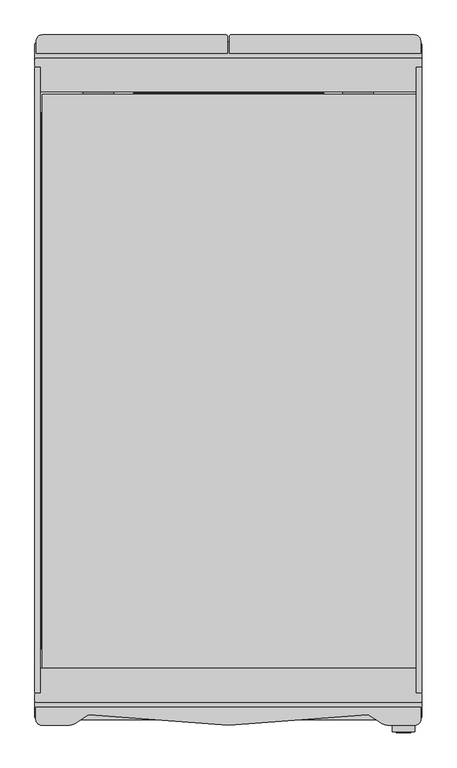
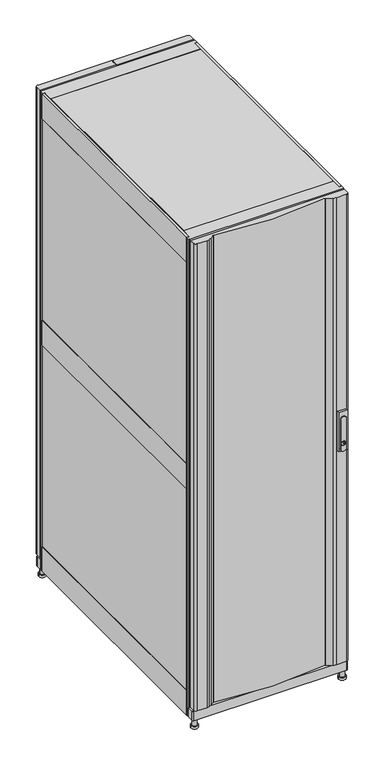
"""IFC4 building model written with IfcOpenShell, lengths in millimetres: proxy geometry, Symmetra_PX_250_UPS_Frame_Schneider_Electric_BIM_Model : SYPF250KD."""

from ifc_helpers import new_model, si_unit, point, frame, frame_2d, origin, place, context, project, spatial, polyline, circle_curve, trimmed, segment, composite_curve, outline, extrude, source, transform, mapped, element, save
from ifc_brep_helpers import plane_surface, cylinder_surface, revolved_surface, advanced_brep


def electrical_equipment_b4252899(model_context):
    return source(origin(), model_context, "Body", "SolidModel", [
        extrude(outline(polyline([(292.0, -484.3030002), (292.0, 484.7389449), (300.0, 484.7389449), (300.0, -484.3030002), (292.0, -484.3030002)])), frame((0.0, 0.0, 1888.946775), z_axis=(0.0, 0.0, 1.0), x_axis=(1.0, 0.0, 0.0)), (0.0, 0.0, 1.0), 101.9999981),
        extrude(outline(polyline([(292.0, -483.7220002), (292.0, 483.8199605), (300.0, 483.8199605), (300.0, -483.7220002), (292.0, -483.7220002)])), frame((0.0, 0.0, 1065.7405589), z_axis=(0.0, 0.0, 1.0), x_axis=(1.0, 0.0, 0.0)), (0.0, 0.0, 1.0), 822.214216),
        extrude(outline(polyline([(292.0, -484.3030002), (292.0, 484.7389449), (300.0, 484.7389449), (300.0, -484.3030002), (292.0, -484.3030002)])), frame((0.0, 0.0, 962.4467451), z_axis=(0.0, 0.0, 1.0), x_axis=(1.0, 0.0, 0.0)), (0.0, 0.0, 1.0), 102.0000055),
        extrude(outline(polyline([(292.0, -483.7220002), (292.0, 483.8199605), (300.0, 483.8199605), (300.0, -483.7220002), (292.0, -483.7220002)])), frame((0.0, 0.0, 139.2405663), z_axis=(0.0, 0.0, 1.0), x_axis=(1.0, 0.0, 0.0)), (0.0, 0.0, 1.0), 822.2141825),
        extrude(outline(polyline([(292.0, -484.3030002), (292.0, 484.7389449), (300.0, 484.7389449), (300.0, -484.3030002), (292.0, -484.3030002)])), frame((0.0, 0.0, 35.9467301), z_axis=(0.0, 0.0, 1.0), x_axis=(1.0, 0.0, 0.0)), (0.0, 0.0, 1.0), 101.9999981),
        extrude(outline(composite_curve([segment(trimmed(circle_curve(frame_2d((965.0100104, 272.0137961)), 11.2467677), [point((965.0100104, 260.7670285))], [point((965.0100104, 283.2605638))], False, "CARTESIAN"), True, "CONTINUOUS"), segment(polyline([(965.0100104, 283.2605638), (1085.0100104, 283.2605638)]), True, "CONTINUOUS"), segment(trimmed(circle_curve(frame_2d((1085.0100104, 272.0137961)), 11.2467677), [point((1085.0100104, 283.2605638))], [point((1085.0100104, 260.7670285))], False, "CARTESIAN"), True, "CONTINUOUS"), segment(polyline([(1085.0100104, 260.7670285), (965.0100104, 260.7670285)]), True, "CONTINUOUS")], self_intersect=False), holes=[composite_curve([segment(trimmed(circle_curve(frame_2d((986.2304594, 272.0353005)), 8.4681222), [point((989.2723415, 264.1323867))], [point((989.2723415, 279.9382143))], True, "CARTESIAN"), True, "CONTINUOUS"), segment(trimmed(circle_curve(frame_2d((986.2304594, 272.0353005)), 8.4681222), [point((989.2723415, 279.9382143))], [point((983.1885772, 279.9382143))], True, "CARTESIAN"), True, "CONTINUOUS"), segment(trimmed(circle_curve(frame_2d((986.2304594, 272.0353005)), 8.4681222), [point((983.1885772, 279.9382143))], [point((983.1885772, 264.1323867))], True, "CARTESIAN"), True, "CONTINUOUS"), segment(trimmed(circle_curve(frame_2d((986.2304594, 272.0353005)), 8.4681222), [point((983.1885772, 264.1323867))], [point((989.2723415, 264.1323867))], True, "CARTESIAN"), True, "CONTINUOUS")], self_intersect=False)]), frame((0.0, -546.5, 0.0), z_axis=(0.0, 1.0, 0.0), x_axis=(0.0, 0.0, 1.0)), (0.0, 0.0, 1.0), 2.0),
        extrude(outline(composite_curve([segment(polyline([(988.2945248, 264.1323867), (984.166394, 264.1323867)]), True, "CONTINUOUS"), segment(trimmed(circle_curve(frame_2d((986.2304594, 272.0353005)), 8.1680116), [point((984.166394, 264.1323867))], [point((984.166394, 279.9382143))], False, "CARTESIAN"), True, "CONTINUOUS"), segment(polyline([(984.166394, 279.9382143), (988.2945248, 279.9382143)]), True, "CONTINUOUS"), segment(trimmed(circle_curve(frame_2d((986.2304594, 272.0353005)), 8.1680116), [point((988.2945248, 279.9382143))], [point((988.2945248, 264.1323867))], False, "CARTESIAN"), True, "CONTINUOUS")], self_intersect=False), holes=[polyline([(981.6937867, 272.0353005), (993.3981021, 272.0353005), (993.3981021, 274.4361857), (981.6937867, 274.4361857), (981.6937867, 272.0353005)])]), frame((0.0, -546.5, 0.0), z_axis=(0.0, 1.0, 0.0), x_axis=(0.0, 0.0, 1.0)), (0.0, 0.0, 1.0), 2.0),
        extrude(outline(polyline([(274.1361857, -546.5), (272.3353005, -546.5), (272.3353005, -544.5), (274.1361857, -544.5), (274.1361857, -546.5)])), frame((0.0, 0.0, 981.9937867), z_axis=(0.0, 0.0, 1.0), x_axis=(1.0, 0.0, 0.0)), (0.0, 0.0, 1.0), 11.1043154),
        extrude(outline(polyline([(289.0270248, -544.5), (254.2370304, -544.5), (254.2370304, -535.0), (289.0270248, -535.0), (289.0270248, -544.5)])), frame((0.0, 0.0, 955.0100058), z_axis=(0.0, 0.0, 1.0), x_axis=(1.0, 0.0, 0.0)), (0.0, 0.0, 1.0), 159.9999908),
        extrude(outline(polyline([(-292.0, 484.7389449), (-292.0, -484.3030002), (-300.0, -484.3030002), (-300.0, 484.7389449), (-292.0, 484.7389449)])), frame((0.0, 0.0, 1888.946775), z_axis=(0.0, 0.0, 1.0), x_axis=(1.0, 0.0, 0.0)), (0.0, 0.0, 1.0), 101.9999981),
        extrude(outline(polyline([(-292.0, 483.8199605), (-292.0, -483.7220002), (-300.0, -483.7220002), (-300.0, 483.8199605), (-292.0, 483.8199605)])), frame((0.0, 0.0, 1065.7405589), z_axis=(0.0, 0.0, 1.0), x_axis=(1.0, 0.0, 0.0)), (0.0, 0.0, 1.0), 822.214216),
        extrude(outline(polyline([(-292.0, 484.7389449), (-292.0, -484.3030002), (-300.0, -484.3030002), (-300.0, 484.7389449), (-292.0, 484.7389449)])), frame((0.0, 0.0, 962.4467451), z_axis=(0.0, 0.0, 1.0), x_axis=(1.0, 0.0, 0.0)), (0.0, 0.0, 1.0), 102.0000055),
        extrude(outline(polyline([(-292.0, 483.8199605), (-292.0, -483.7220002), (-300.0, -483.7220002), (-300.0, 483.8199605), (-292.0, 483.8199605)])), frame((0.0, 0.0, 139.2405663), z_axis=(0.0, 0.0, 1.0), x_axis=(1.0, 0.0, 0.0)), (0.0, 0.0, 1.0), 822.2141825),
        extrude(outline(polyline([(-292.0, 484.7389449), (-292.0, -484.3030002), (-300.0, -484.3030002), (-300.0, 484.7389449), (-292.0, 484.7389449)])), frame((0.0, 0.0, 35.9467301), z_axis=(0.0, 0.0, 1.0), x_axis=(1.0, 0.0, 0.0)), (0.0, 0.0, 1.0), 101.9999981),
        extrude(outline(composite_curve([segment(polyline([(295.0, -525.858838), (-295.0, -525.858838)]), True, "CONTINUOUS"), segment(trimmed(circle_curve(frame_2d((-295.0, -520.858838)), 5.0), [point((-295.0, -525.858838))], [point((-300.0, -520.858838))], False, "CARTESIAN"), True, "CONTINUOUS"), segment(polyline([(-300.0, -520.858838), (-300.0, -497.6556519), (300.0, -497.6556519), (300.0, -520.858838)]), True, "CONTINUOUS"), segment(trimmed(circle_curve(frame_2d((295.0, -520.858838)), 5.0), [point((300.0, -520.858838))], [point((295.0, -525.858838))], False, "CARTESIAN"), True, "CONTINUOUS")], self_intersect=False)), frame((0.0, 0.0, 36.3), z_axis=(0.0, 0.0, 1.0), x_axis=(1.0, 0.0, 0.0)), (0.0, 0.0, 1.0), 38.1),
        extrude(outline(composite_curve([segment(trimmed(circle_curve(frame_2d((295.0, 519.921338)), 5.0), [point((295.0, 524.921338))], [point((300.0, 519.921338))], False, "CARTESIAN"), True, "CONTINUOUS"), segment(polyline([(300.0, 519.921338), (300.0, 496.7181519), (-300.0, 496.7181519), (-300.0, 519.921338)]), True, "CONTINUOUS"), segment(trimmed(circle_curve(frame_2d((-295.0, 519.921338)), 5.0), [point((-300.0, 519.921338))], [point((-295.0, 524.921338))], False, "CARTESIAN"), True, "CONTINUOUS"), segment(polyline([(-295.0, 524.921338), (295.0, 524.921338)]), True, "CONTINUOUS")], self_intersect=False)), frame((0.0, 0.0, 36.3), z_axis=(0.0, 0.0, 1.0), x_axis=(1.0, 0.0, 0.0)), (0.0, 0.0, 1.0), 38.1),
        advanced_brep(
        [(295.0884724, 510.7969997, 40.0), (276.9884724, 510.7969997, 40.0), (276.9884724, 510.7969997, 10.0), (295.0884724, 510.7969997, 10.0), (271.9800276, 510.7969997, 10.0), (299.9800276, 510.7969997, 10.0), (271.9800276, 510.7969997, 0.0), (299.9800276, 510.7969997, 0.0)],
        [
            (0, 1, circle_curve(frame((286.0384724, 510.7969997, 40.0), z_axis=(0.0, 0.0, 1.0), x_axis=(-1.0, 0.0, 0.0)), 9.05)),
            (1, 0, circle_curve(frame((286.0384724, 510.7969997, 40.0), z_axis=(0.0, 0.0, 1.0), x_axis=(-1.0, 0.0, 0.0)), 9.05)),
            (1, 2),
            (2, 3, circle_curve(frame((286.0384724, 510.7969997, 10.0), z_axis=(0.0, 0.0, 1.0), x_axis=(-1.0, 0.0, 0.0)), 9.05)),
            (3, 0),
            (3, 2, circle_curve(frame((286.0384724, 510.7969997, 10.0), z_axis=(0.0, 0.0, 1.0), x_axis=(-1.0, 0.0, 0.0)), 9.05)),
            (4, 5, circle_curve(frame((285.9800276, 510.7969997, 10.0), z_axis=(0.0, 0.0, 1.0), x_axis=(1.0, 0.0, 0.0)), 14.0)),
            (5, 4, circle_curve(frame((285.9800276, 510.7969997, 10.0), z_axis=(0.0, 0.0, 1.0), x_axis=(1.0, 0.0, 0.0)), 14.0)),
            (6, 7, circle_curve(frame((285.9800276, 510.7969997, 0.0), z_axis=(0.0, 0.0, -1.0), x_axis=(1.0, 0.0, 0.0)), 14.0)),
            (7, 6, circle_curve(frame((285.9800276, 510.7969997, 0.0), z_axis=(0.0, 0.0, -1.0), x_axis=(1.0, 0.0, 0.0)), 14.0)),
            (4, 6),
            (7, 5),
        ],
        [
            plane_surface(frame((276.9884724, 510.7969997, 40.0), z_axis=(0.0, 0.0, 1.0), x_axis=(0.0, -1.0, 0.0))),
            cylinder_surface(frame((286.0384724, 510.7969997, 10.0), z_axis=(0.0, 0.0, 1.0), x_axis=(-1.0, 0.0, 0.0)), 9.05),
            plane_surface(frame((299.9800276, 510.7969997, 10.0), z_axis=(0.0, 0.0, 1.0), x_axis=(0.0, 1.0, 0.0))),
            plane_surface(frame((299.9800276, 510.7969997, 0.0), z_axis=(0.0, 0.0, -1.0), x_axis=(0.0, -1.0, 0.0))),
            cylinder_surface(frame((285.9800276, 510.7969997, 0.0), z_axis=(0.0, 0.0, 1.0), x_axis=(1.0, 0.0, 0.0)), 14.0),
        ],
        [
            (0, [[1, 2]]),
            (1, [[-2, 3, 4, 5]]),
            (1, [[-1, -5, 6, -3]]),
            (2, [[7, 8], [-4, -6]]),
            (3, [[9, 10]]),
            (4, [[-7, 11, -10, 12]]),
            (4, [[-8, -12, -9, -11]]),
        ],
    ),
        advanced_brep(
        [(295.0884724, -511.9030003, 40.0), (276.9884724, -511.9030003, 40.0), (276.9884724, -511.9030003, 10.0), (295.0884724, -511.9030003, 10.0), (271.9800276, -511.9030003, 10.0), (299.9800276, -511.9030003, 10.0), (271.9800276, -511.9030003, 0.0), (299.9800276, -511.9030003, 0.0)],
        [
            (0, 1, circle_curve(frame((286.0384724, -511.9030003, 40.0), z_axis=(0.0, 0.0, 1.0), x_axis=(-1.0, 0.0, 0.0)), 9.05)),
            (1, 0, circle_curve(frame((286.0384724, -511.9030003, 40.0), z_axis=(0.0, 0.0, 1.0), x_axis=(-1.0, 0.0, 0.0)), 9.05)),
            (1, 2),
            (2, 3, circle_curve(frame((286.0384724, -511.9030003, 10.0), z_axis=(0.0, 0.0, 1.0), x_axis=(-1.0, 0.0, 0.0)), 9.05)),
            (3, 0),
            (3, 2, circle_curve(frame((286.0384724, -511.9030003, 10.0), z_axis=(0.0, 0.0, 1.0), x_axis=(-1.0, 0.0, 0.0)), 9.05)),
            (4, 5, circle_curve(frame((285.9800276, -511.9030003, 10.0), z_axis=(0.0, 0.0, 1.0), x_axis=(1.0, 0.0, 0.0)), 14.0)),
            (5, 4, circle_curve(frame((285.9800276, -511.9030003, 10.0), z_axis=(0.0, 0.0, 1.0), x_axis=(1.0, 0.0, 0.0)), 14.0)),
            (6, 7, circle_curve(frame((285.9800276, -511.9030003, 0.0), z_axis=(0.0, 0.0, -1.0), x_axis=(1.0, 0.0, 0.0)), 14.0)),
            (7, 6, circle_curve(frame((285.9800276, -511.9030003, 0.0), z_axis=(0.0, 0.0, -1.0), x_axis=(1.0, 0.0, 0.0)), 14.0)),
            (4, 6),
            (7, 5),
        ],
        [
            plane_surface(frame((276.9884724, 510.7969997, 40.0), z_axis=(0.0, 0.0, 1.0), x_axis=(0.0, -1.0, 0.0))),
            cylinder_surface(frame((286.0384724, -511.9030003, 0.0), z_axis=(0.0, 0.0, 1.0), x_axis=(-1.0, 0.0, 0.0)), 9.05),
            plane_surface(frame((299.9800276, 510.7969997, 10.0), z_axis=(0.0, 0.0, 1.0), x_axis=(0.0, 1.0, 0.0))),
            plane_surface(frame((299.9800276, 510.7969997, 0.0), z_axis=(0.0, 0.0, -1.0), x_axis=(0.0, -1.0, 0.0))),
            cylinder_surface(frame((285.9800276, -511.9030003, 0.0), z_axis=(0.0, 0.0, 1.0), x_axis=(1.0, 0.0, 0.0)), 14.0),
        ],
        [
            (0, [[1, 2]]),
            (1, [[-2, 3, 4, 5]]),
            (1, [[-1, -5, 6, -3]]),
            (2, [[7, 8], [-4, -6]]),
            (3, [[9, 10]]),
            (4, [[-7, 11, -10, 12]]),
            (4, [[-8, -12, -9, -11]]),
        ],
    ),
        extrude(outline(polyline([(237.0235403, 263.8835947), (-240.5320546, 263.8835947), (-240.5320546, 410.9154708), (237.0235403, 410.9154708), (237.0235403, 263.8835947)])), frame((0.0, 0.0, 44.5), z_axis=(0.0, 0.0, 1.0), x_axis=(1.0, 0.0, 0.0)), (0.0, 0.0, 1.0), 1.0),
        extrude(outline(polyline([(-289.9249756, -416.0459999), (-289.9249756, 414.9399709), (-146.8398751, 414.9399709), (-146.8398751, 444.9399709), (148.1601249, 444.9399709), (148.1601249, 414.9399709), (290.3410287, 414.9399709), (290.3410287, -416.0459999), (147.8889915, -416.0459999), (147.8889915, -446.0459999), (-147.1110085, -446.0459999), (-147.1110085, -416.0459999), (-289.9249756, -416.0459999)])), frame((0.0, 0.0, 40.0), z_axis=(0.0, 0.0, 1.0), x_axis=(1.0, 0.0, 0.0)), (0.0, 0.0, 1.0), 5.0),
        advanced_brep(
        [(-299.7259724, -511.9030003, 10.0), (-271.7259724, -511.9030003, 10.0), (-276.6759724, -511.9030003, 10.0), (-294.7759724, -511.9030003, 10.0), (-299.7259724, -511.9030003, 0.0), (-271.7259724, -511.9030003, 0.0), (-294.7759724, -511.9030003, 40.0), (-276.6759724, -511.9030003, 40.0)],
        [
            (0, 1, circle_curve(frame((-285.7259724, -511.9030003, 10.0), z_axis=(0.0, 0.0, 1.0), x_axis=(1.0, 0.0, 0.0)), 14.0)),
            (1, 0, circle_curve(frame((-285.7259724, -511.9030003, 10.0), z_axis=(0.0, 0.0, 1.0), x_axis=(1.0, 0.0, 0.0)), 14.0)),
            (2, 3, circle_curve(frame((-285.7259724, -511.9030003, 10.0), z_axis=(0.0, 0.0, -1.0), x_axis=(1.0, 0.0, 0.0)), 9.05)),
            (3, 2, circle_curve(frame((-285.7259724, -511.9030003, 10.0), z_axis=(0.0, 0.0, -1.0), x_axis=(1.0, 0.0, 0.0)), 9.05)),
            (4, 5, circle_curve(frame((-285.7259724, -511.9030003, 0.0), z_axis=(0.0, 0.0, -1.0), x_axis=(1.0, 0.0, 0.0)), 14.0)),
            (5, 4, circle_curve(frame((-285.7259724, -511.9030003, 0.0), z_axis=(0.0, 0.0, -1.0), x_axis=(1.0, 0.0, 0.0)), 14.0)),
            (0, 4),
            (5, 1),
            (6, 7, circle_curve(frame((-285.7259724, -511.9030003, 40.0), z_axis=(0.0, 0.0, 1.0), x_axis=(1.0, 0.0, 0.0)), 9.05)),
            (7, 6, circle_curve(frame((-285.7259724, -511.9030003, 40.0), z_axis=(0.0, 0.0, 1.0), x_axis=(1.0, 0.0, 0.0)), 9.05)),
            (6, 3),
            (2, 7),
        ],
        [
            plane_surface(frame((-271.7259724, -511.9030003, 10.0), z_axis=(0.0, 0.0, 1.0), x_axis=(0.0, 1.0, 0.0))),
            plane_surface(frame((-271.7259724, -511.9030003, 0.0), z_axis=(0.0, 0.0, -1.0), x_axis=(0.0, -1.0, 0.0))),
            cylinder_surface(frame((-285.7259724, -511.9030003, 0.0), z_axis=(0.0, 0.0, 1.0), x_axis=(1.0, 0.0, 0.0)), 14.0),
            plane_surface(frame((-276.6759724, 510.7969997, 40.0), z_axis=(0.0, 0.0, 1.0), x_axis=(0.0, 1.0, 0.0))),
            cylinder_surface(frame((-285.7259724, -511.9030003, 0.0), z_axis=(0.0, 0.0, 1.0), x_axis=(1.0, 0.0, 0.0)), 9.05),
        ],
        [
            (0, [[1, 2], [3, 4]]),
            (1, [[5, 6]]),
            (2, [[-1, 7, -6, 8]]),
            (2, [[-2, -8, -5, -7]]),
            (3, [[9, 10]]),
            (4, [[-9, 11, -3, 12]]),
            (4, [[-10, -12, -4, -11]]),
        ],
    ),
        advanced_brep(
        [(-299.7259724, 510.7969997, 10.0), (-271.7259724, 510.7969997, 10.0), (-276.6759724, 510.7969997, 10.0), (-294.7759724, 510.7969997, 10.0), (-299.7259724, 510.7969997, 0.0), (-271.7259724, 510.7969997, 0.0), (-294.7759724, 510.7969997, 40.0), (-276.6759724, 510.7969997, 40.0)],
        [
            (0, 1, circle_curve(frame((-285.7259724, 510.7969997, 10.0), z_axis=(0.0, 0.0, 1.0), x_axis=(1.0, 0.0, 0.0)), 14.0)),
            (1, 0, circle_curve(frame((-285.7259724, 510.7969997, 10.0), z_axis=(0.0, 0.0, 1.0), x_axis=(1.0, 0.0, 0.0)), 14.0)),
            (2, 3, circle_curve(frame((-285.7259724, 510.7969997, 10.0), z_axis=(0.0, 0.0, -1.0), x_axis=(1.0, 0.0, 0.0)), 9.05)),
            (3, 2, circle_curve(frame((-285.7259724, 510.7969997, 10.0), z_axis=(0.0, 0.0, -1.0), x_axis=(1.0, 0.0, 0.0)), 9.05)),
            (4, 5, circle_curve(frame((-285.7259724, 510.7969997, 0.0), z_axis=(0.0, 0.0, -1.0), x_axis=(1.0, 0.0, 0.0)), 14.0)),
            (5, 4, circle_curve(frame((-285.7259724, 510.7969997, 0.0), z_axis=(0.0, 0.0, -1.0), x_axis=(1.0, 0.0, 0.0)), 14.0)),
            (0, 4),
            (5, 1),
            (6, 7, circle_curve(frame((-285.7259724, 510.7969997, 40.0), z_axis=(0.0, 0.0, 1.0), x_axis=(1.0, 0.0, 0.0)), 9.05)),
            (7, 6, circle_curve(frame((-285.7259724, 510.7969997, 40.0), z_axis=(0.0, 0.0, 1.0), x_axis=(1.0, 0.0, 0.0)), 9.05)),
            (6, 3),
            (2, 7),
        ],
        [
            plane_surface(frame((-271.7259724, -511.9030003, 10.0), z_axis=(0.0, 0.0, 1.0), x_axis=(0.0, 1.0, 0.0))),
            plane_surface(frame((-271.7259724, -511.9030003, 0.0), z_axis=(0.0, 0.0, -1.0), x_axis=(0.0, -1.0, 0.0))),
            cylinder_surface(frame((-285.7259724, 510.7969997, 0.0), z_axis=(0.0, 0.0, 1.0), x_axis=(1.0, 0.0, 0.0)), 14.0),
            plane_surface(frame((-276.6759724, 510.7969997, 40.0), z_axis=(0.0, 0.0, 1.0), x_axis=(0.0, 1.0, 0.0))),
            cylinder_surface(frame((-285.7259724, 510.7969997, 10.0), z_axis=(0.0, 0.0, 1.0), x_axis=(1.0, 0.0, 0.0)), 9.05),
        ],
        [
            (0, [[1, 2], [3, 4]]),
            (1, [[5, 6]]),
            (2, [[-1, 7, -6, 8]]),
            (2, [[-2, -8, -5, -7]]),
            (3, [[9, 10]]),
            (4, [[-9, 11, -3, 12]]),
            (4, [[-10, -12, -4, -11]]),
        ],
    ),
        extrude(outline(composite_curve([segment(trimmed(circle_curve(frame_2d((-460.0797469, 31.0)), 31.0), [point((-491.0797469, 31.0))], [point((-429.0797469, 31.0))], False, "CARTESIAN"), True, "CONTINUOUS"), segment(trimmed(circle_curve(frame_2d((-460.0797469, 31.0)), 31.0), [point((-429.0797469, 31.0))], [point((-491.0797469, 31.0))], False, "CARTESIAN"), True, "CONTINUOUS")], self_intersect=False)), frame((178.0, 0.0, 0.0), z_axis=(1.0, 0.0, 0.0), x_axis=(0.0, 1.0, 0.0)), (0.0, 0.0, 1.0), 47.0),
        extrude(outline(composite_curve([segment(trimmed(circle_curve(frame_2d((456.1065435, 31.0)), 31.0), [point((425.1065435, 31.0))], [point((487.1065435, 31.0))], False, "CARTESIAN"), True, "CONTINUOUS"), segment(trimmed(circle_curve(frame_2d((456.1065435, 31.0)), 31.0), [point((487.1065435, 31.0))], [point((425.1065435, 31.0))], False, "CARTESIAN"), True, "CONTINUOUS")], self_intersect=False)), frame((178.0, 0.0, 0.0), z_axis=(1.0, 0.0, 0.0), x_axis=(0.0, 1.0, 0.0)), (0.0, 0.0, 1.0), 47.0),
        extrude(outline(composite_curve([segment(trimmed(circle_curve(frame_2d((297.7190436, 496.7139543)), 2.4079842), [point((297.7190437, 499.1219386))], [point((300.1270278, 496.7139541))], False, "CARTESIAN"), True, "CONTINUOUS"), segment(polyline([(300.1270278, 496.7139541), (300.1270278, 486.9109379)]), True, "CONTINUOUS"), segment(trimmed(circle_curve(frame_2d((297.7190273, 486.9109379)), 2.4080005), [point((300.1270278, 486.9109379))], [point((297.7190273, 484.5029374))], False, "CARTESIAN"), True, "CONTINUOUS"), segment(polyline([(297.7190273, 484.5029374), (290.8795297, 484.5029374), (290.8795297, 446.5903878), (-290.6255007, 446.5903878), (-290.6255007, 484.5029365), (-297.4649733, 484.5029365)]), True, "CONTINUOUS"), segment(trimmed(circle_curve(frame_2d((-297.4649742, 486.9109387)), 2.4080021), [point((-297.4649733, 484.5029365))], [point((-299.8729763, 486.9109382))], False, "CARTESIAN"), True, "CONTINUOUS"), segment(polyline([(-299.8729763, 486.9109382), (-299.8729763, 496.7139374)]), True, "CONTINUOUS"), segment(trimmed(circle_curve(frame_2d((-297.4649722, 496.7139344)), 2.4080041), [point((-299.8729763, 496.7139374))], [point((-297.4649711, 499.1219386))], False, "CARTESIAN"), True, "CONTINUOUS"), segment(polyline([(-297.4649711, 499.1219386), (297.7190437, 499.1219386)]), True, "CONTINUOUS")], self_intersect=False)), frame((0.0, 0.0, 36.3), z_axis=(0.0, 0.0, 1.0), x_axis=(1.0, 0.0, 0.0)), (0.0, 0.0, 1.0), 1954.7),
        extrude(outline(composite_curve([segment(polyline([(297.7190437, -499.122001), (-297.4649711, -499.122001)]), True, "CONTINUOUS"), segment(trimmed(circle_curve(frame_2d((-297.4649722, -496.7139968)), 2.4080041), [point((-297.4649711, -499.122001))], [point((-299.8729763, -496.7139998))], False, "CARTESIAN"), True, "CONTINUOUS"), segment(polyline([(-299.8729763, -496.7139998), (-299.8729763, -486.9110006)]), True, "CONTINUOUS"), segment(trimmed(circle_curve(frame_2d((-297.4649742, -486.9110011)), 2.4080021), [point((-299.8729763, -486.9110006))], [point((-297.4649733, -484.5029989))], False, "CARTESIAN"), True, "CONTINUOUS"), segment(polyline([(-297.4649733, -484.5029989), (-290.6255007, -484.5029989), (-290.6255007, -446.5904502), (290.8795297, -446.5904502), (290.8795297, -484.5029998), (297.7190273, -484.5029998)]), True, "CONTINUOUS"), segment(trimmed(circle_curve(frame_2d((297.7190273, -486.9110003)), 2.4080005), [point((297.7190273, -484.5029998))], [point((300.1270278, -486.9110003))], False, "CARTESIAN"), True, "CONTINUOUS"), segment(polyline([(300.1270278, -486.9110003), (300.1270278, -496.7140165)]), True, "CONTINUOUS"), segment(trimmed(circle_curve(frame_2d((297.7190436, -496.7140167)), 2.4079842), [point((300.1270278, -496.7140165))], [point((297.7190437, -499.122001))], False, "CARTESIAN"), True, "CONTINUOUS")], self_intersect=False)), frame((0.0, 0.0, 36.3), z_axis=(0.0, 0.0, 1.0), x_axis=(1.0, 0.0, 0.0)), (0.0, 0.0, 1.0), 1954.7),
        extrude(outline(polyline([(290.5825286, 443.349961), (290.5825286, -446.3030015), (-288.9999642, -446.3030015), (-288.9999642, 443.349961), (290.5825286, 443.349961)])), frame((0.0, 0.0, 1990.0), z_axis=(0.0, 0.0, 1.0), x_axis=(1.0, 0.0, 0.0)), (0.0, 0.0, 1.0), 1.0),
        advanced_brep(
        [(298.6270294, -506.9500011, 1991.0), (-298.3669519, -506.9500011, 1991.0), (-298.3669519, -525.6943843, 1991.0), (-288.7729883, -535.0, 1991.0), (-250.3829777, -535.0, 1991.0), (-242.0373277, -533.6568848, 1991.0), (-232.149142, -528.5877079, 1991.0), (-217.3214294, -518.6957693, 1991.0), (-215.6132293, -518.342797, 1991.0), (215.8672846, -518.342797, 1991.0), (217.5754847, -518.6957693, 1991.0), (239.3544203, -532.4946008, 1991.0), (250.6364957, -535.0000003, 1991.0), (289.0270286, -535.0000003, 1991.0), (298.6270294, -525.4000001, 1991.0), (298.6270294, -506.9500011, 80.3), (298.6270294, -525.4000001, 80.3), (289.0270286, -535.0000003, 80.3), (250.6364957, -535.0000003, 80.3), (239.3544203, -532.4946008, 80.3), (217.5754845, -518.6957695, 80.3), (215.8672846, -518.342797, 80.3), (-215.6132293, -518.342797, 80.3), (-217.3214294, -518.6957693, 80.3), (-232.149142, -528.5877079, 80.3), (-242.0373277, -533.6568848, 80.3), (-250.3829777, -535.0, 80.3), (-288.7729883, -535.0, 80.3), (-298.3669519, -525.6943843, 80.3), (-298.3669519, -506.9500011, 80.3)],
        [
            (0, 1),
            (1, 2),
            (2, 3, circle_curve(frame((-288.7729883, -525.4015689, 1991.0), z_axis=(0.0, 0.0, 1.0), x_axis=(1.0, 0.0, 0.0)), 9.5984311)),
            (3, 4),
            (4, 5, circle_curve(frame((-250.1008714, -510.1528714, 1991.0), z_axis=(0.0, 0.0, 1.0), x_axis=(1.0, 0.0, 0.0)), 24.84873)),
            (5, 6, circle_curve(frame((-254.6682955, -496.8395194, 1991.0), z_axis=(0.0, 0.0, 1.0), x_axis=(1.0, 0.0, 0.0)), 38.9237684)),
            (6, 7, circle_curve(frame((-51.990788, -782.580443, 1991.0), z_axis=(0.0, 0.0, -1.0), x_axis=(1.0, 0.0, 0.0)), 311.3990078)),
            (7, 8, circle_curve(frame((-215.9926018, -520.8167145, 1991.0), z_axis=(0.0, 0.0, -1.0), x_axis=(1.0, 0.0, 0.0)), 2.5028366)),
            (8, 9, circle_curve(frame((0.1270279, 888.5161436, 1991.0), z_axis=(0.0, 0.0, 1.0), x_axis=(1.0, 0.0, 0.0)), 1423.3045834)),
            (9, 10, circle_curve(frame((216.2852436, -520.6299765, 1991.0), z_axis=(0.0, 0.0, -1.0), x_axis=(1.0, 0.0, 0.0)), 2.3250548)),
            (10, 11, circle_curve(frame((521.6509127, -62.8546774, 1991.0), z_axis=(0.0, 0.0, 1.0), x_axis=(1.0, 0.0, 0.0)), 547.9534354)),
            (11, 12, circle_curve(frame((250.651957, -508.2754956, 1991.0), z_axis=(0.0, 0.0, 1.0), x_axis=(1.0, 0.0, 0.0)), 26.7245092)),
            (12, 13),
            (13, 14, circle_curve(frame((289.0270291, -525.4000001, 1991.0), z_axis=(0.0, 0.0, 1.0), x_axis=(1.0, 0.0, 0.0)), 9.6000003)),
            (14, 0),
            (15, 16),
            (16, 17, circle_curve(frame((289.0270291, -525.4000001, 80.3), z_axis=(0.0, 0.0, -1.0), x_axis=(1.0, 0.0, 0.0)), 9.6000003)),
            (17, 18),
            (18, 19, circle_curve(frame((250.651957, -508.2754956, 80.3), z_axis=(0.0, 0.0, -1.0), x_axis=(1.0, 0.0, 0.0)), 26.7245092)),
            (19, 20, circle_curve(frame((521.6509127, -62.8546774, 80.3), z_axis=(0.0, 0.0, -1.0), x_axis=(1.0, 0.0, 0.0)), 547.9534354)),
            (20, 21, circle_curve(frame((216.2852436, -520.6299765, 80.3), z_axis=(0.0, 0.0, 1.0), x_axis=(1.0, 0.0, 0.0)), 2.3250548)),
            (21, 22, circle_curve(frame((0.1270279, 888.5161436, 80.3), z_axis=(0.0, 0.0, -1.0), x_axis=(1.0, 0.0, 0.0)), 1423.3045834)),
            (22, 23, circle_curve(frame((-215.9926018, -520.8167145, 80.3), z_axis=(0.0, 0.0, 1.0), x_axis=(1.0, 0.0, 0.0)), 2.5028366)),
            (23, 24, circle_curve(frame((-51.990788, -782.580443, 80.3), z_axis=(0.0, 0.0, 1.0), x_axis=(1.0, 0.0, 0.0)), 311.3990078)),
            (24, 25, circle_curve(frame((-254.6682955, -496.8395194, 80.3), z_axis=(0.0, 0.0, -1.0), x_axis=(1.0, 0.0, 0.0)), 38.9237684)),
            (25, 26, circle_curve(frame((-250.1008714, -510.1528714, 80.3), z_axis=(0.0, 0.0, -1.0), x_axis=(1.0, 0.0, 0.0)), 24.84873)),
            (26, 27),
            (27, 28, circle_curve(frame((-288.7729883, -525.4015689, 80.3), z_axis=(0.0, 0.0, -1.0), x_axis=(1.0, 0.0, 0.0)), 9.5984311)),
            (28, 29),
            (29, 15),
            (0, 15),
            (29, 1),
            (28, 2),
            (27, 3),
            (26, 4),
            (25, 5),
            (24, 6),
            (23, 7),
            (22, 8),
            (21, 9),
            (20, 10),
            (19, 11),
            (18, 12),
            (17, 13),
            (16, 14),
        ],
        [
            plane_surface(frame((-298.3669519, -506.9500011, 1991.0), z_axis=(0.0, 0.0, 1.0), x_axis=(-1.0, 0.0, 0.0))),
            plane_surface(frame((-298.3669519, -506.9500011, 80.3), z_axis=(0.0, 0.0, -1.0), x_axis=(1.0, 0.0, 0.0))),
            plane_surface(frame((298.6270294, -506.9500011, 1991.0), z_axis=(0.0, 1.0, 0.0), x_axis=(0.0, 0.0, -1.0))),
            plane_surface(frame((-298.3669519, -506.9500011, 1991.0), z_axis=(-1.0, 0.0, 0.0), x_axis=(0.0, 0.0, -1.0))),
            cylinder_surface(frame((-288.7729883, -525.4015689, 80.3), z_axis=(0.0, 0.0, 1.0), x_axis=(1.0, 0.0, 0.0)), 9.5984311),
            plane_surface(frame((-288.7729883, -535.0, 1991.0), z_axis=(0.0, -1.0, 0.0), x_axis=(0.0, 0.0, -1.0))),
            cylinder_surface(frame((-250.1008714, -510.1528714, 80.3), z_axis=(0.0, 0.0, 1.0), x_axis=(1.0, 0.0, 0.0)), 24.84873),
            cylinder_surface(frame((-254.6682955, -496.8395194, 80.3), z_axis=(0.0, 0.0, 1.0), x_axis=(1.0, 0.0, 0.0)), 38.9237684),
            revolved_surface(polyline([(259.4082198, -782.580443, 80.3), (259.4082198, -782.580443, 1991.0)]), (-51.990788, -782.580443, 80.3), (0.0, 0.0, -1.0)),
            revolved_surface(polyline([(-213.4897652, -520.8167145, 80.3), (-213.4897652, -520.8167145, 1991.0)]), (-215.9926018, -520.8167145, 80.3), (0.0, 0.0, -1.0)),
            cylinder_surface(frame((0.1270279, 888.5161436, 80.3), z_axis=(0.0, 0.0, 1.0), x_axis=(1.0, 0.0, 0.0)), 1423.3045834),
            revolved_surface(polyline([(218.6102984, -520.6299765, 80.3), (218.6102984, -520.6299765, 1991.0)]), (216.2852436, -520.6299765, 80.3), (0.0, 0.0, -1.0)),
            cylinder_surface(frame((521.6509127, -62.8546774, 80.3), z_axis=(0.0, 0.0, 1.0), x_axis=(1.0, 0.0, 0.0)), 547.9534354),
            cylinder_surface(frame((250.651957, -508.2754956, 80.3), z_axis=(0.0, 0.0, 1.0), x_axis=(1.0, 0.0, 0.0)), 26.7245092),
            plane_surface(frame((250.6364957, -535.0000003, 1991.0), z_axis=(0.0, -1.0, 0.0), x_axis=(0.0, 0.0, -1.0))),
            cylinder_surface(frame((289.0270291, -525.4000001, 80.3), z_axis=(0.0, 0.0, 1.0), x_axis=(1.0, 0.0, 0.0)), 9.6000003),
            plane_surface(frame((298.6270294, -525.4000001, 1991.0), z_axis=(1.0, 0.0, 0.0), x_axis=(0.0, 0.0, -1.0))),
        ],
        [
            (0, [[1, 2, 3, 4, 5, 6, 7, 8, 9, 10, 11, 12, 13, 14, 15]]),
            (1, [[16, 17, 18, 19, 20, 21, 22, 23, 24, 25, 26, 27, 28, 29, 30]]),
            (2, [[-1, 31, -30, 32]]),
            (3, [[-2, -32, -29, 33]]),
            (4, [[-3, -33, -28, 34]]),
            (5, [[-4, -34, -27, 35]]),
            (6, [[-5, -35, -26, 36]]),
            (7, [[-6, -36, -25, 37]]),
            (8, [[-7, -37, -24, 38]]),
            (9, [[-8, -38, -23, 39]]),
            (10, [[-9, -39, -22, 40]]),
            (11, [[-10, -40, -21, 41]]),
            (12, [[-11, -41, -20, 42]]),
            (13, [[-12, -42, -19, 43]]),
            (14, [[-13, -43, -18, 44]]),
            (15, [[-14, -44, -17, 45]]),
            (16, [[-15, -45, -16, -31]]),
        ],
    ),
        advanced_brep(
        [(-297.9869723, 506.949935, 1991.0), (-1.486975, 506.949935, 1991.0), (-1.486975, 532.8969991, 1991.0), (-3.5899758, 535.0, 1991.0), (-287.7730012, 535.0, 1991.0), (-288.7729388, 535.0, 1991.0), (-297.9869724, 525.7859664, 1991.0), (-297.9869723, 506.949935, 80.3), (-297.9869723, 525.7859664, 80.3), (-288.7729388, 535.0, 80.3), (-287.7730012, 535.0, 80.3), (-3.5899758, 535.0, 80.3), (-1.486975, 532.8969991, 80.3), (-1.486975, 506.949935, 80.3)],
        [
            (0, 1),
            (1, 2),
            (2, 3, circle_curve(frame((-3.5899758, 532.8969991, 1991.0), z_axis=(0.0, 0.0, 1.0), x_axis=(1.0, 0.0, 0.0)), 2.1030009)),
            (3, 4),
            (4, 5),
            (5, 6, circle_curve(frame((-288.7729388, 525.7859664, 1991.0), z_axis=(0.0, 0.0, 1.0), x_axis=(1.0, 0.0, 0.0)), 9.2140336)),
            (6, 0),
            (7, 8),
            (8, 9, circle_curve(frame((-288.7729388, 525.7859664, 80.3), z_axis=(0.0, 0.0, -1.0), x_axis=(1.0, 0.0, 0.0)), 9.2140336)),
            (9, 10),
            (10, 11),
            (11, 12, circle_curve(frame((-3.5899758, 532.8969991, 80.3), z_axis=(0.0, 0.0, -1.0), x_axis=(1.0, 0.0, 0.0)), 2.1030009)),
            (12, 13),
            (13, 7),
            (0, 7),
            (13, 1),
            (12, 2),
            (11, 3),
            (10, 4),
            (9, 5),
            (8, 6),
        ],
        [
            plane_surface(frame((-298.3669519, -506.9500011, 1991.0), z_axis=(0.0, 0.0, 1.0), x_axis=(-1.0, 0.0, 0.0))),
            plane_surface(frame((-298.3669519, -506.9500011, 80.3), z_axis=(0.0, 0.0, -1.0), x_axis=(1.0, 0.0, 0.0))),
            plane_surface(frame((-297.9869723, 506.949935, 1991.0), z_axis=(0.0, -1.0, 0.0), x_axis=(0.0, 0.0, -1.0))),
            plane_surface(frame((-1.486975, 506.949935, 1991.0), z_axis=(1.0, -7.324265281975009e-11, 0.0), x_axis=(0.0, 0.0, -1.0))),
            cylinder_surface(frame((-3.5899758, 532.8969991, 0.0), z_axis=(0.0, 0.0, 1.0), x_axis=(1.0, 0.0, 0.0)), 2.1030009),
            plane_surface(frame((-3.5899758, 535.0, 1991.0), z_axis=(0.0, 1.0, 0.0), x_axis=(0.0, 0.0, -1.0))),
            plane_surface(frame((-287.7730012, 535.0, 1991.0), z_axis=(1.3306560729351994e-10, 1.0, 0.0), x_axis=(0.0, 0.0, -1.0))),
            cylinder_surface(frame((-288.7729388, 525.7859664, 0.0), z_axis=(0.0, 0.0, 1.0), x_axis=(1.0, 0.0, 0.0)), 9.2140336),
            plane_surface(frame((-297.9869723, 525.7859664, 1991.0), z_axis=(-1.0, 0.0, 0.0), x_axis=(0.0, 0.0, -1.0))),
        ],
        [
            (0, [[1, 2, 3, 4, 5, 6, 7]]),
            (1, [[8, 9, 10, 11, 12, 13, 14]]),
            (2, [[-1, 15, -14, 16]]),
            (3, [[-2, -16, -13, 17]]),
            (4, [[-3, -17, -12, 18]]),
            (5, [[-4, -18, -11, 19]]),
            (6, [[-5, -19, -10, 20]]),
            (7, [[-6, -20, -9, 21]]),
            (8, [[-7, -21, -8, -15]]),
        ],
    ),
        advanced_brep(
        [(298.3397663, 506.949935, 1991.0), (298.3397663, 525.7859664, 1991.0), (289.1257327, 535.0, 1991.0), (288.1257951, 535.0, 1991.0), (3.9427698, 535.0, 1991.0), (1.8397689, 532.8969991, 1991.0), (1.8397689, 506.949935, 1991.0), (298.3397663, 506.949935, 80.3), (1.8397689, 506.949935, 80.3), (1.8397689, 532.8969991, 80.3), (3.9427698, 535.0, 80.3), (288.1257951, 535.0, 80.3), (289.1257327, 535.0, 80.3), (298.3397663, 525.7859664, 80.3)],
        [
            (0, 1),
            (1, 2, circle_curve(frame((289.1257327, 525.7859664, 1991.0), z_axis=(0.0, 0.0, 1.0), x_axis=(1.0, 0.0, 0.0)), 9.2140336)),
            (2, 3),
            (3, 4),
            (4, 5, circle_curve(frame((3.9427698, 532.8969991, 1991.0), z_axis=(0.0, 0.0, 1.0), x_axis=(1.0, 0.0, 0.0)), 2.1030009)),
            (5, 6),
            (6, 0),
            (7, 8),
            (8, 9),
            (9, 10, circle_curve(frame((3.9427698, 532.8969991, 80.3), z_axis=(0.0, 0.0, -1.0), x_axis=(1.0, 0.0, 0.0)), 2.1030009)),
            (10, 11),
            (11, 12),
            (12, 13, circle_curve(frame((289.1257327, 525.7859664, 80.3), z_axis=(0.0, 0.0, -1.0), x_axis=(1.0, 0.0, 0.0)), 9.2140336)),
            (13, 7),
            (0, 7),
            (13, 1),
            (12, 2),
            (11, 3),
            (10, 4),
            (9, 5),
            (8, 6),
        ],
        [
            plane_surface(frame((-298.3669519, -506.9500011, 1991.0), z_axis=(0.0, 0.0, 1.0), x_axis=(-1.0, 0.0, 0.0))),
            plane_surface(frame((-298.3669519, -506.9500011, 80.3), z_axis=(0.0, 0.0, -1.0), x_axis=(1.0, 0.0, 0.0))),
            plane_surface(frame((298.3397663, 506.949935, 1991.0), z_axis=(1.0, 0.0, 0.0), x_axis=(0.0, 0.0, -1.0))),
            cylinder_surface(frame((289.1257327, 525.7859664, 0.0), z_axis=(0.0, 0.0, 1.0), x_axis=(1.0, 0.0, 0.0)), 9.2140336),
            plane_surface(frame((289.1257327, 535.0, 1991.0), z_axis=(-1.33065607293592e-10, 1.0, 0.0), x_axis=(0.0, 0.0, -1.0))),
            plane_surface(frame((288.1257951, 535.0, 1991.0), z_axis=(0.0, 1.0, 0.0), x_axis=(0.0, 0.0, -1.0))),
            cylinder_surface(frame((3.9427698, 532.8969991, 0.0), z_axis=(0.0, 0.0, 1.0), x_axis=(1.0, 0.0, 0.0)), 2.1030009),
            plane_surface(frame((1.8397689, 532.8969991, 1991.0), z_axis=(-1.0, -7.324265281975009e-11, 0.0), x_axis=(0.0, 0.0, -1.0))),
            plane_surface(frame((1.8397689, 506.949935, 1991.0), z_axis=(0.0, -1.0, 0.0), x_axis=(0.0, 0.0, -1.0))),
        ],
        [
            (0, [[1, 2, 3, 4, 5, 6, 7]]),
            (1, [[8, 9, 10, 11, 12, 13, 14]]),
            (2, [[-1, 15, -14, 16]]),
            (3, [[-2, -16, -13, 17]]),
            (4, [[-3, -17, -12, 18]]),
            (5, [[-4, -18, -11, 19]]),
            (6, [[-5, -19, -10, 20]]),
            (7, [[-6, -20, -9, 21]]),
            (8, [[-7, -21, -8, -15]]),
        ],
    ),
        extrude(outline(composite_curve([segment(trimmed(circle_curve(frame_2d((-460.0797469, 31.0)), 31.0), [point((-491.0797469, 31.0))], [point((-429.0797469, 31.0))], False, "CARTESIAN"), True, "CONTINUOUS"), segment(trimmed(circle_curve(frame_2d((-460.0797469, 31.0)), 31.0), [point((-429.0797469, 31.0))], [point((-491.0797469, 31.0))], False, "CARTESIAN"), True, "CONTINUOUS")], self_intersect=False)), frame((-225.0, 0.0, 0.0), z_axis=(1.0, 0.0, 0.0), x_axis=(0.0, 1.0, 0.0)), (0.0, 0.0, 1.0), 47.0),
        extrude(outline(composite_curve([segment(trimmed(circle_curve(frame_2d((456.1065435, 31.0)), 31.0), [point((425.1065435, 31.0))], [point((487.1065435, 31.0))], False, "CARTESIAN"), True, "CONTINUOUS"), segment(trimmed(circle_curve(frame_2d((456.1065435, 31.0)), 31.0), [point((487.1065435, 31.0))], [point((425.1065435, 31.0))], False, "CARTESIAN"), True, "CONTINUOUS")], self_intersect=False)), frame((-225.0, 0.0, 0.0), z_axis=(1.0, 0.0, 0.0), x_axis=(0.0, 1.0, 0.0)), (0.0, 0.0, 1.0), 47.0),
    ])


if __name__ == "__main__":
    model = new_model("IFC4")
    model_context = context("Model", 3, world=origin())
    ifc_project = project(units=[si_unit("LENGTHUNIT", "METRE", prefix="MILLI")], contexts=[model_context])
    site = spatial("IfcSite", under=ifc_project)
    building = spatial("IfcBuilding", under=site)
    placement = place(None, origin())
    electrical_equipment_shape = electrical_equipment_b4252899(model_context)
    element("IfcBuildingElementProxy", 1, Name="Symmetra_PX_250_UPS_Frame_Schneider_Electric_BIM_Model : SYPF250KD", ObjectType="Symmetra_PX_250_UPS_Frame_Schneider_Electric_BIM_Model : SYPF250KD", at=placement, inside=building, context=model_context, shape_type="MappedRepresentation", body=[
        mapped(electrical_equipment_shape, transform((0.0, 0.0, 0.0), x_axis=(1.0, 0.0, 0.0), y_axis=(0.0, 1.0, 0.0), z_axis=(0.0, 0.0, 1.0))),
    ])
    save(model, "model.ifc")
